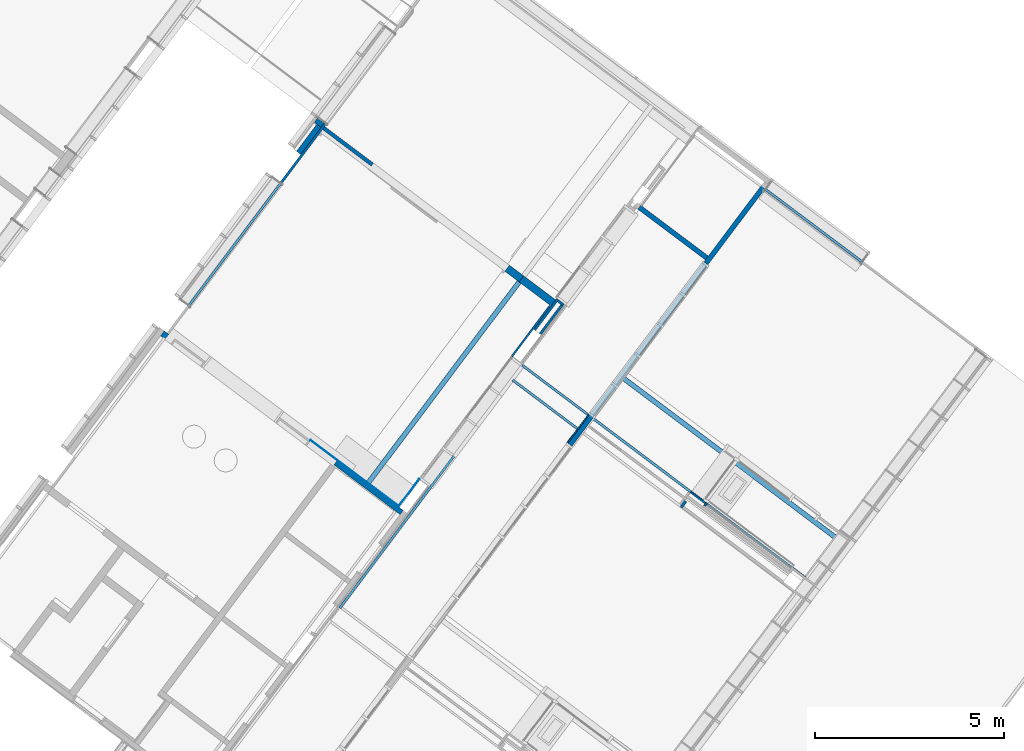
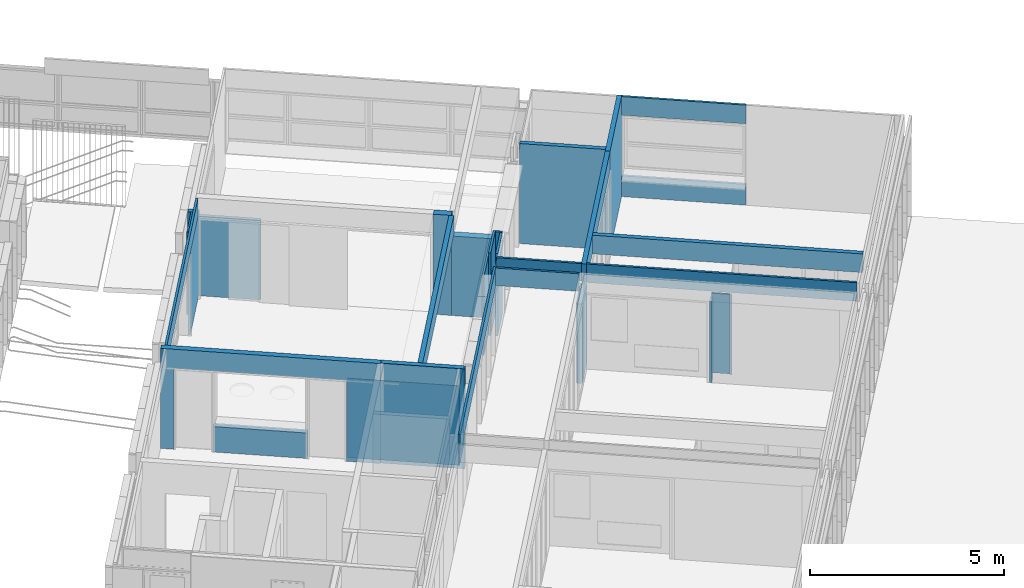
# One storey, part 123 of 243: 32 walls, 3 openings.
"""IFC2X3 building model written with IfcOpenShell, lengths in metres."""

from ifc_helpers import new_model, entity, si_unit, converted_unit, derived_unit, direction, frame, frame_2d, origin, origin_2d_with_axis, place, context, subcontext, project, spatial, polyline, rectangle, extrude, clip, bounded_halfspace, material, layer, layer_set, layer_usage, type_object, element, save


model = new_model("IFC2X3")

# Units and contexts
model_context = context("Model", 3, precision=1e-05, world=origin(), true_north=direction((6.123031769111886e-17, 1.0)))
body_context = subcontext(model_context, "Body", "Model", "MODEL_VIEW")
ifc_project = project(units=[si_unit("LENGTHUNIT", "METRE"), si_unit("AREAUNIT", "SQUARE_METRE"), si_unit("VOLUMEUNIT", "CUBIC_METRE"), converted_unit("PLANEANGLEUNIT", "DEGREE", entity("IfcRatioMeasure", 0.017453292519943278), si_unit("PLANEANGLEUNIT", "RADIAN"), dimensions=[0, 0, 0, 0, 0, 0, 0]), si_unit("MASSUNIT", "GRAM", prefix="KILO"), derived_unit("MASSDENSITYUNIT", [(si_unit("MASSUNIT", "GRAM", prefix="KILO"), 1), (si_unit("LENGTHUNIT", "METRE"), -3)]), derived_unit("IONCONCENTRATIONUNIT", [(si_unit("MASSUNIT", "GRAM", prefix="KILO"), 1), (si_unit("LENGTHUNIT", "METRE"), -3)]), derived_unit("MOMENTOFINERTIAUNIT", [(si_unit("LENGTHUNIT", "METRE"), 4)]), si_unit("TIMEUNIT", "SECOND"), si_unit("FREQUENCYUNIT", "HERTZ"), si_unit("THERMODYNAMICTEMPERATUREUNIT", "DEGREE_CELSIUS"), derived_unit("THERMALTRANSMITTANCEUNIT", [(si_unit("MASSUNIT", "GRAM", prefix="KILO"), 1), (si_unit("THERMODYNAMICTEMPERATUREUNIT", "KELVIN"), -1), (si_unit("TIMEUNIT", "SECOND"), -3)]), derived_unit("THERMALCONDUCTANCEUNIT", [(si_unit("MASSUNIT", "GRAM", prefix="KILO"), 1), (si_unit("THERMODYNAMICTEMPERATUREUNIT", "KELVIN"), -1), (si_unit("TIMEUNIT", "SECOND"), -3), (si_unit("LENGTHUNIT", "METRE"), 1)]), derived_unit("VOLUMETRICFLOWRATEUNIT", [(si_unit("LENGTHUNIT", "METRE"), 3), (si_unit("TIMEUNIT", "SECOND"), -1)]), derived_unit("MASSFLOWRATEUNIT", [(si_unit("MASSUNIT", "GRAM", prefix="KILO"), 1), (si_unit("TIMEUNIT", "SECOND"), -1)]), derived_unit("ROTATIONALFREQUENCYUNIT", [(si_unit("TIMEUNIT", "SECOND"), -1)]), si_unit("ELECTRICCURRENTUNIT", "AMPERE"), si_unit("ELECTRICVOLTAGEUNIT", "VOLT"), si_unit("POWERUNIT", "WATT"), si_unit("FORCEUNIT", "NEWTON", prefix="KILO"), si_unit("ILLUMINANCEUNIT", "LUX"), si_unit("LUMINOUSFLUXUNIT", "LUMEN"), si_unit("LUMINOUSINTENSITYUNIT", "CANDELA"), derived_unit("USERDEFINED", [(si_unit("MASSUNIT", "GRAM", prefix="KILO"), -1), (si_unit("LENGTHUNIT", "METRE"), -2), (si_unit("TIMEUNIT", "SECOND"), 3), (si_unit("LUMINOUSFLUXUNIT", "LUMEN"), 1)]), derived_unit("USERDEFINED", [(si_unit("MASSUNIT", "GRAM", prefix="KILO"), 1), (si_unit("TIMEUNIT", "SECOND"), -3), (si_unit("LENGTHUNIT", "METRE"), 3), (si_unit("ELECTRICCURRENTUNIT", "AMPERE"), -2)]), derived_unit("SOUNDPOWERUNIT", [(si_unit("MASSUNIT", "GRAM", prefix="KILO"), 1), (si_unit("TIMEUNIT", "SECOND"), -3), (si_unit("LENGTHUNIT", "METRE"), 2)]), derived_unit("SOUNDPRESSUREUNIT", [(si_unit("MASSUNIT", "GRAM", prefix="KILO"), 1), (si_unit("LENGTHUNIT", "METRE"), -1), (si_unit("TIMEUNIT", "SECOND"), -2)]), derived_unit("LINEARVELOCITYUNIT", [(si_unit("LENGTHUNIT", "METRE"), 1), (si_unit("TIMEUNIT", "SECOND"), -1)]), si_unit("PRESSUREUNIT", "PASCAL"), derived_unit("USERDEFINED", [(si_unit("MASSUNIT", "GRAM", prefix="KILO"), 1), (si_unit("LENGTHUNIT", "METRE"), -2), (si_unit("TIMEUNIT", "SECOND"), -2)]), derived_unit("LINEARFORCEUNIT", [(si_unit("MASSUNIT", "GRAM", prefix="KILO"), 1), (si_unit("TIMEUNIT", "SECOND"), -2)]), derived_unit("PLANARFORCEUNIT", [(si_unit("MASSUNIT", "GRAM", prefix="KILO"), 1), (si_unit("LENGTHUNIT", "METRE"), -1), (si_unit("TIMEUNIT", "SECOND"), -2)]), derived_unit("SPECIFICHEATCAPACITYUNIT", [(si_unit("THERMODYNAMICTEMPERATUREUNIT", "KELVIN"), -1), (si_unit("LENGTHUNIT", "METRE"), 2), (si_unit("TIMEUNIT", "SECOND"), -2)]), derived_unit("HEATINGVALUEUNIT", [(si_unit("LENGTHUNIT", "METRE"), 2), (si_unit("TIMEUNIT", "SECOND"), -2)]), derived_unit("VAPORPERMEABILITYUNIT", [(si_unit("LENGTHUNIT", "METRE"), -1), (si_unit("TIMEUNIT", "SECOND"), 1)]), derived_unit("DYNAMICVISCOSITYUNIT", [(si_unit("MASSUNIT", "GRAM", prefix="KILO"), 1), (si_unit("TIMEUNIT", "SECOND"), -1), (si_unit("LENGTHUNIT", "METRE"), -1)]), derived_unit("THERMALEXPANSIONCOEFFICIENTUNIT", [(si_unit("THERMODYNAMICTEMPERATUREUNIT", "KELVIN"), -1)]), derived_unit("MODULUSOFELASTICITYUNIT", [(si_unit("MASSUNIT", "GRAM", prefix="KILO"), 1), (si_unit("LENGTHUNIT", "METRE"), -1), (si_unit("TIMEUNIT", "SECOND"), -2)]), derived_unit("ISOTHERMALMOISTURECAPACITYUNIT", [(si_unit("LENGTHUNIT", "METRE"), 3), (si_unit("MASSUNIT", "GRAM", prefix="KILO"), -1)]), derived_unit("MOISTUREDIFFUSIVITYUNIT", [(si_unit("TIMEUNIT", "SECOND"), -1), (si_unit("LENGTHUNIT", "METRE"), 2)])], contexts=[model_context])

# Site, building, storey
site_placement = place(None, frame((0.0, 0.0, 235.0), z_axis=(0.0, 0.0, 1.0), x_axis=(-0.7996477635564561, 0.6004693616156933, 0.0)))
site = spatial("IfcSite", under=ifc_project, at=site_placement, Name="Default", CompositionType="ELEMENT")
building_placement = place(site_placement, origin())
building = spatial("IfcBuilding", under=site, at=building_placement, CompositionType="ELEMENT")
storey_placement = place(building_placement, origin())
storey = spatial("IfcBuildingStorey", under=building, at=storey_placement, Name="P0- Escola", CompositionType="ELEMENT", Elevation=0.0)

# Walls
ifc_material_1 = material(Name="_Ceràmica- ENV")
ifc_layer_1 = layer(ifc_material_1, 0.14)
ifc_layer_set_1 = layer_set([ifc_layer_1], Name="Muro básico:ENV- Ceràmic- 14 cm")
ifc_layer_usage_1 = layer_usage(ifc_layer_set_1, "AXIS2", "NEGATIVE", 0.07)
wall_type_1 = type_object("IfcWallType", Name="Muro básico:ENV- Ceràmic- 14 cm", PredefinedType="STANDARD", material=ifc_layer_set_1)
wall_1_placement = place(storey_placement, frame((23.715147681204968, -35.36519175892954, 0.0), z_axis=(0.0, 0.0, 1.0), x_axis=(0.0, -1.0, 0.0)))
element("IfcWallStandardCase", 1, at=wall_1_placement, inside=storey, type_object=wall_type_1, material=ifc_layer_usage_1, Name="Muro básico:ENV- Ceràmic- 14 cm", ObjectType="Muro básico:ENV- Ceràmic- 14 cm", context=body_context, shape_type="Clipping", body=[
    clip(clip(extrude(rectangle(XDim=1.0329999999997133, YDim=0.14000000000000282, at=frame_2d((0.5164999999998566, 0.0), x_axis=(-1.0, 0.0))), origin(), (0.0, 0.0, 1.0), 2.6), bounded_halfspace(frame((0.8929999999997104, -0.07000000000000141, 0.6000000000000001), z_axis=(-1.0, 0.0, 0.0), x_axis=(0.0, -1.0, 0.0)), True, frame((0.8929999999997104, -0.07000000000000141, 0.6000000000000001), z_axis=(-1.0, 0.0, 0.0), x_axis=(0.0, -1.0, 0.0)), polyline([(0.0, 0.0), (0.0, 2.0), (-0.14000000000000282, 2.0), (-0.14000000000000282, 0.0), (0.0, 0.0)]))), bounded_halfspace(frame((0.8929999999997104, 0.07000000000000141, 0.6000000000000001), z_axis=(0.0, 0.0, -1.0), x_axis=(-1.0, 0.0, 0.0)), True, frame((0.8929999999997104, 0.07000000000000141, 0.6000000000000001), z_axis=(0.0, 0.0, -1.0), x_axis=(-1.0, 0.0, 0.0)), polyline([(0.0, 0.0), (-0.1400000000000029, 0.0), (-0.1400000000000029, -0.1399999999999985), (0.0, -0.1399999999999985), (0.0, 0.0)]))),
])
wall_2_placement = place(storey_placement, frame((23.645147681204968, -36.32819175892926, 0.6000000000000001)))
element("IfcWallStandardCase", 2, at=wall_2_placement, inside=storey, type_object=wall_type_1, material=ifc_layer_usage_1, Name="Muro básico:ENV- Ceràmic- 14 cm", ObjectType="Muro básico:ENV- Ceràmic- 14 cm", context=body_context, shape_type="SweptSolid", body=[
    extrude(rectangle(XDim=0.22370000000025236, YDim=0.14000000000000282, at=frame_2d((0.11185000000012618, 0.0), x_axis=(-1.0, 0.0))), origin(), (0.0, 0.0, 1.0), 2.0),
])
ifc_layer_usage_2 = layer_usage(ifc_layer_set_1, "AXIS2", "POSITIVE", -0.07)
wall_3_placement = place(storey_placement, frame((18.012647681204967, -29.395191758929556, 0.0), z_axis=(0.0, 0.0, 1.0), x_axis=(-1.0, 0.0, 0.0)))
element("IfcWallStandardCase", 3, at=wall_3_placement, inside=storey, type_object=wall_type_1, material=ifc_layer_usage_2, Name="Muro básico:ENV- Ceràmic- 14 cm", ObjectType="Muro básico:ENV- Ceràmic- 14 cm", context=body_context, shape_type="SweptSolid", body=[
    extrude(rectangle(XDim=2.1875000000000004, YDim=0.14000000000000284, at=frame_2d((1.0937500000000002, 4.718447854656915e-16), x_axis=(-1.0, 0.0))), origin(), (0.0, 0.0, 1.0), 3.150000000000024),
])
ifc_material_2 = material(Name="_Fusta massisa- T1-  REV- PAV")
ifc_layer_2 = layer(ifc_material_2, 0.015)
ifc_material_3 = material(Name="_Genèric perfils, muntants, rastrells")
ifc_layer_3 = layer(ifc_material_3, 0.02)
ifc_layer_set_2 = layer_set([ifc_layer_2, ifc_layer_3], Name="Muro básico:REV- Fusta- T1- 3,5 cm")
ifc_layer_usage_3 = layer_usage(ifc_layer_set_2, "AXIS2", "POSITIVE", -0.0175)
wall_type_2 = type_object("IfcWallType", Name="Muro básico:REV- Fusta- T1- 3,5 cm", PredefinedType="STANDARD", material=ifc_layer_set_2)
wall_4_placement = place(storey_placement, frame((13.421647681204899, -34.44019175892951, 0.0), z_axis=(0.0, 0.0, 1.0), x_axis=(0.0, 1.0, 0.0)))
element("IfcWallStandardCase", 4, at=wall_4_placement, inside=storey, type_object=wall_type_2, material=ifc_layer_usage_3, Name="Muro básico:REV- Fusta- T1- 3,5 cm", ObjectType="Muro básico:REV- Fusta- T1- 3,5 cm", context=body_context, shape_type="SweptSolid", body=[
    extrude(rectangle(XDim=0.9399999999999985, YDim=0.035000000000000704, at=frame_2d((0.46999999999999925, 0.0), x_axis=(-1.0, 0.0))), origin(), (0.0, 0.0, 1.0), 2.5050000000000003),
])
ifc_material_4 = material(Name="_Guix laminat- ENV")
ifc_layer_4 = layer(ifc_material_4, 0.02)
ifc_material_5 = material(Name="_Aillament")
ifc_layer_5 = layer(ifc_material_5, 0.045)
ifc_layer_set_3 = layer_set([ifc_layer_4, ifc_layer_5], Name="Muro básico:REV- Guix Laminat Extradossat- Aillament- T1- 6,5 cm")
ifc_layer_usage_4 = layer_usage(ifc_layer_set_3, "AXIS2", "NEGATIVE", 0.032499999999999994)
wall_type_3 = type_object("IfcWallType", Name="Muro básico:REV- Guix Laminat Extradossat- Aillament- T1- 6,5 cm", PredefinedType="STANDARD", material=ifc_layer_set_3)
wall_5_placement = place(storey_placement, frame((15.91264768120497, -35.36519175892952, 0.0), z_axis=(0.0, 0.0, 1.0), x_axis=(0.0, -1.0, 0.0)))
element("IfcWallStandardCase", 5, at=wall_5_placement, inside=storey, type_object=wall_type_3, material=ifc_layer_usage_4, Name="Muro básico:REV- Guix Laminat Extradossat- Aillament- T1- 6,5 cm", ObjectType="Muro básico:REV- Guix Laminat Extradossat- Aillament- T1- 6,5 cm", context=body_context, shape_type="SweptSolid", body=[
    extrude(rectangle(XDim=1.0200000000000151, YDim=0.06499999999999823, at=frame_2d((0.5100000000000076, -1.8735013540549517e-16), x_axis=(-1.0, 0.0))), origin(), (0.0, 0.0, 1.0), 2.6),
])
wall_6_placement = place(storey_placement, frame((15.880147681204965, -36.35269175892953, 0.0), z_axis=(0.0, 0.0, 1.0), x_axis=(-1.0, 0.0, 0.0)))
element("IfcWallStandardCase", 6, at=wall_6_placement, inside=storey, type_object=wall_type_3, material=ifc_layer_usage_4, Name="Muro básico:REV- Guix Laminat Extradossat- Aillament- T1- 6,5 cm", ObjectType="Muro básico:REV- Guix Laminat Extradossat- Aillament- T1- 6,5 cm", context=body_context, shape_type="SweptSolid", body=[
    extrude(rectangle(XDim=0.18499999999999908, YDim=0.06500000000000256, at=frame_2d((0.09249999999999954, 0.0), x_axis=(-1.0, 0.0))), origin(), (0.0, 0.0, 1.0), 2.6),
])
wall_7_placement = place(storey_placement, frame((15.727647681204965, -36.32019175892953, 0.0), z_axis=(0.0, 0.0, 1.0), x_axis=(0.0, 1.0, 0.0)))
element("IfcWallStandardCase", 7, at=wall_7_placement, inside=storey, type_object=wall_type_3, material=ifc_layer_usage_4, Name="Muro básico:REV- Guix Laminat Extradossat- Aillament- T1- 6,5 cm", ObjectType="Muro básico:REV- Guix Laminat Extradossat- Aillament- T1- 6,5 cm", context=body_context, shape_type="SweptSolid", body=[
    extrude(rectangle(XDim=0.955000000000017, YDim=0.06499999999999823, at=frame_2d((0.4775000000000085, -2.42861286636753e-16), x_axis=(-1.0, 0.0))), origin(), (0.0, 0.0, 1.0), 2.6),
])
wall_8_placement = place(storey_placement, frame((23.612647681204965, -36.13619175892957, 2.6), z_axis=(0.0, 0.0, 1.0), x_axis=(0.0, 1.0, 0.0)))
element("IfcWallStandardCase", 8, at=wall_8_placement, inside=storey, type_object=wall_type_3, material=ifc_layer_usage_4, Name="Muro básico:REV- Guix Laminat Extradossat- Aillament- T1- 6,5 cm", ObjectType="Muro básico:REV- Guix Laminat Extradossat- Aillament- T1- 6,5 cm", context=body_context, shape_type="SweptSolid", body=[
    extrude(rectangle(XDim=6.671000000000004, YDim=0.06500000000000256, at=frame_2d((3.335500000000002, 0.0), x_axis=(-1.0, 0.0))), origin(), (0.0, 0.0, 1.0), 0.5500000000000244),
])
wall_9_placement = place(storey_placement, frame((23.612647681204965, -36.39819175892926, 0.0), z_axis=(0.0, 0.0, 1.0), x_axis=(0.0, 1.0, 0.0)))
element("IfcWallStandardCase", 9, at=wall_9_placement, inside=storey, type_object=wall_type_3, material=ifc_layer_usage_4, Name="Muro básico:REV- Guix Laminat Extradossat- Aillament- T1- 6,5 cm", ObjectType="Muro básico:REV- Guix Laminat Extradossat- Aillament- T1- 6,5 cm", context=body_context, shape_type="SweptSolid", body=[
    extrude(rectangle(XDim=1.9529999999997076, YDim=0.06500000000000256, at=frame_2d((0.9764999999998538, 0.0), x_axis=(-1.0, 0.0))), origin(), (0.0, 0.0, 1.0), 2.6),
])
wall_10_placement = place(storey_placement, frame((15.612647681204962, -33.99019175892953, 2.5650000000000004), z_axis=(0.0, 0.0, 1.0), x_axis=(0.0, 1.0, 0.0)))
element("IfcWallStandardCase", 10, at=wall_10_placement, inside=storey, type_object=wall_type_3, material=ifc_layer_usage_4, Name="Muro básico:REV- Guix Laminat Extradossat- Aillament- T1- 6,5 cm", ObjectType="Muro básico:REV- Guix Laminat Extradossat- Aillament- T1- 6,5 cm", context=body_context, shape_type="SweptSolid", body=[
    extrude(rectangle(XDim=7.6000000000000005, YDim=0.06499999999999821, at=frame_2d((3.8000000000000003, 0.0), x_axis=(-1.0, 0.0))), origin(), (0.0, 0.0, 1.0), 0.5850000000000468),
])
wall_11_placement = place(storey_placement, frame((13.410147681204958, -33.95769175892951, 2.600000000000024)))
element("IfcWallStandardCase", 11, at=wall_11_placement, inside=storey, type_object=wall_type_3, material=ifc_layer_usage_4, Name="Muro básico:REV- Guix Laminat Extradossat- Aillament- T1- 6,5 cm", ObjectType="Muro básico:REV- Guix Laminat Extradossat- Aillament- T1- 6,5 cm", context=body_context, shape_type="Clipping", body=[
    clip(extrude(rectangle(XDim=2.170000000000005, YDim=0.06500000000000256, at=frame_2d((1.0850000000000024, -2.0747292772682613e-15), x_axis=(-1.0, 0.0))), origin(), (0.0, 0.0, 1.0), 0.5499999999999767), bounded_halfspace(frame((2.170000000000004, -0.03250000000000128, 0.0), z_axis=(0.0, 0.0, 1.0), x_axis=(-1.0, 0.0, 0.0)), True, frame((2.170000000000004, -0.03250000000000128, 0.0), z_axis=(0.0, 0.0, 1.0), x_axis=(-1.0, 0.0, 0.0)), polyline([(0.0, 0.0), (0.0, -0.06499999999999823), (2.1700000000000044, -0.06499999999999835), (2.170000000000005, 0.0), (0.0, 0.0)]))),
])
ifc_layer_usage_5 = layer_usage(ifc_layer_set_3, "AXIS2", "POSITIVE", -0.032499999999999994)
wall_12_placement = place(storey_placement, frame((13.410147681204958, -34.42269175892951, 2.5649999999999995)))
element("IfcWallStandardCase", 12, at=wall_12_placement, inside=storey, type_object=wall_type_3, material=ifc_layer_usage_5, Name="Muro básico:REV- Guix Laminat Extradossat- Aillament- T1- 6,5 cm", ObjectType="Muro básico:REV- Guix Laminat Extradossat- Aillament- T1- 6,5 cm", context=body_context, shape_type="Clipping", body=[
    clip(clip(extrude(rectangle(XDim=2.202500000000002, YDim=0.06500000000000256, at=frame_2d((1.101250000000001, 3.95516952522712e-16), x_axis=(-1.0, 0.0))), origin(), (0.0, 0.0, 1.0), 0.5850000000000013), bounded_halfspace(frame((2.200000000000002, 0.03250000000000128, 0.03500000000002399), z_axis=(0.0, 0.0, 1.0), x_axis=(-1.0, 0.0, 0.0)), True, frame((2.200000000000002, 0.03250000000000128, 0.03500000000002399), z_axis=(0.0, 0.0, 1.0), x_axis=(-1.0, 0.0, 0.0)), polyline([(0.0, 0.0), (2.2000000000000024, 0.0), (2.2000000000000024, 0.06499999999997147), (0.0, 0.06499999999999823), (0.0, 0.0)]))), bounded_halfspace(frame((2.2000000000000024, -0.03249999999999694, 0.03500000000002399), z_axis=(1.0, 0.0, 0.0), x_axis=(0.0, 0.0, -1.0)), True, frame((2.2000000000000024, -0.03249999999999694, 0.03500000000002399), z_axis=(1.0, 0.0, 0.0), x_axis=(0.0, 0.0, -1.0)), polyline([(0.0, 0.0), (0.03500000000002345, 0.0), (0.03500000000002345, 0.06499999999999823), (0.0, 0.06499999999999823), (0.0, 0.0)]))),
])
wall_13_placement = place(storey_placement, frame((6.250147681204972, -34.42269175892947, 2.5649999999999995)))
element("IfcWallStandardCase", 13, at=wall_13_placement, inside=storey, type_object=wall_type_3, material=ifc_layer_usage_5, Name="Muro básico:REV- Guix Laminat Extradossat- Aillament- T1- 6,5 cm", ObjectType="Muro básico:REV- Guix Laminat Extradossat- Aillament- T1- 6,5 cm", context=body_context, shape_type="SweptSolid", body=[
    extrude(rectangle(XDim=7.029999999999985, YDim=0.06500000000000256, at=frame_2d((3.5149999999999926, 1.8665624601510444e-15), x_axis=(-1.0, 0.0))), origin(), (0.0, 0.0, 1.0), 0.5850000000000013),
])
wall_14_placement = place(storey_placement, frame((10.045147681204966, -42.007691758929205, 2.565)))
element("IfcWallStandardCase", 14, at=wall_14_placement, inside=storey, type_object=wall_type_3, material=ifc_layer_usage_4, Name="Muro básico:REV- Guix Laminat Extradossat- Aillament- T1- 6,5 cm", ObjectType="Muro básico:REV- Guix Laminat Extradossat- Aillament- T1- 6,5 cm", context=body_context, shape_type="SweptSolid", body=[
    extrude(rectangle(XDim=3.2349999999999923, YDim=0.06500000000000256, at=frame_2d((1.6174999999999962, 1.0408340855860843e-17), x_axis=(-1.0, 0.0))), origin(), (0.0, 0.0, 1.0), 0.5850000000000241),
])
wall_15_placement = place(storey_placement, frame((10.04514768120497, -42.00769175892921, 0.0)))
element("IfcWallStandardCase", 15, at=wall_15_placement, inside=storey, type_object=wall_type_3, material=ifc_layer_usage_4, Name="Muro básico:REV- Guix Laminat Extradossat- Aillament- T1- 6,5 cm", ObjectType="Muro básico:REV- Guix Laminat Extradossat- Aillament- T1- 6,5 cm", context=body_context, shape_type="SweptSolid", body=[
    extrude(rectangle(XDim=3.23499999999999, YDim=0.06500000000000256, at=frame_2d((1.617499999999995, 1.0408340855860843e-17), x_axis=(-1.0, 0.0))), origin(), (0.0, 0.0, 1.0), 0.6550000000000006),
])
ifc_layer_6 = layer(ifc_material_4, 0.03)
ifc_layer_7 = layer(ifc_material_3, 0.07)
ifc_layer_8 = layer(ifc_material_4, 0.03)
ifc_layer_set_4 = layer_set([ifc_layer_6, ifc_layer_7, ifc_layer_8], Name="Muro básico:ENV- Guix Laminat- 13 cm")
ifc_layer_usage_6 = layer_usage(ifc_layer_set_4, "AXIS2", "NEGATIVE", 0.06499999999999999)
wall_type_4 = type_object("IfcWallType", Name="Muro básico:ENV- Guix Laminat- 13 cm", PredefinedType="STANDARD", material=ifc_layer_set_4)
wall_16_placement = place(storey_placement, frame((13.339147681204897, -33.50019175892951, 0.0), z_axis=(0.0, 0.0, 1.0), x_axis=(0.0, -1.0, 0.0)))
element("IfcWallStandardCase", 16, at=wall_16_placement, inside=storey, type_object=wall_type_4, material=ifc_layer_usage_6, Name="Muro básico:ENV- Guix Laminat- 13 cm", ObjectType="Muro básico:ENV- Guix Laminat- 13 cm", context=body_context, shape_type="SweptSolid", body=[
    extrude(rectangle(XDim=0.9399999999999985, YDim=0.13000000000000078, at=frame_2d((0.46999999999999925, 0.0), x_axis=(-1.0, 0.0))), origin(), (0.0, 0.0, 1.0), 2.5050000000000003),
])
ifc_layer_usage_7 = layer_usage(ifc_layer_set_4, "AXIS2", "POSITIVE", -0.06499999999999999)
wall_17_placement = place(storey_placement, frame((15.645147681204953, -39.6251917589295, 0.0), z_axis=(0.0, 0.0, 1.0), x_axis=(-1.0, 0.0, 0.0)))
element("IfcWallStandardCase", 17, at=wall_17_placement, inside=storey, type_object=wall_type_4, material=ifc_layer_usage_7, Name="Muro básico:ENV- Guix Laminat- 13 cm", ObjectType="Muro básico:ENV- Guix Laminat- 13 cm", context=body_context, shape_type="SweptSolid", body=[
    extrude(rectangle(XDim=2.234999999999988, YDim=0.1300000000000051, at=frame_2d((1.117499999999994, 0.0), x_axis=(-1.0, 0.0))), origin(), (0.0, 0.0, 1.0), 3.150000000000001),
])
wall_18_placement = place(storey_placement, frame((13.345147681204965, -39.500191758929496, 2.565), z_axis=(0.0, 0.0, 1.0), x_axis=(0.0, 1.0, 0.0)))
element("IfcWallStandardCase", 18, at=wall_18_placement, inside=storey, type_object=wall_type_4, material=ifc_layer_usage_7, Name="Muro básico:ENV- Guix Laminat- 13 cm", ObjectType="Muro básico:ENV- Guix Laminat- 13 cm", context=body_context, shape_type="Clipping", body=[
    clip(extrude(rectangle(XDim=5.109999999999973, YDim=0.13000000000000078, at=frame_2d((2.5549999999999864, 4.85722573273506e-17), x_axis=(-1.0, 0.0))), origin(), (0.0, 0.0, 1.0), 0.5850000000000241), bounded_halfspace(frame((0.0, -0.06500000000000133, 0.0), z_axis=(1.0, 0.0, 0.0), x_axis=(0.0, -1.0, 0.0)), True, frame((0.0, -0.06500000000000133, 0.0), z_axis=(1.0, 0.0, 0.0), x_axis=(0.0, -1.0, 0.0)), polyline([(0.0, 0.0), (-0.13000000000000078, 0.0), (-0.13000000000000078, -0.5850000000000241), (0.0, -0.5850000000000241), (0.0, 0.0)]))),
])
wall_19_placement = place(storey_placement, frame((6.250147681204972, -35.75619175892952, 2.5649999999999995)))
element("IfcWallStandardCase", 19, at=wall_19_placement, inside=storey, type_object=wall_type_4, material=ifc_layer_usage_7, Name="Muro básico:ENV- Guix Laminat- 13 cm", ObjectType="Muro básico:ENV- Guix Laminat- 13 cm", context=body_context, shape_type="SweptSolid", body=[
    extrude(rectangle(XDim=7.029999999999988, YDim=0.12999999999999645, at=frame_2d((3.514999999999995, -3.122502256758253e-16), x_axis=(-1.0, 0.0))), origin(), (0.0, 0.0, 1.0), 0.5850000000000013),
])
wall_20_placement = place(storey_placement, frame((17.000147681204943, -36.13619175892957, 2.565), z_axis=(0.0, 0.0, 1.0), x_axis=(0.0, 1.0, 0.0)))
element("IfcWallStandardCase", 20, at=wall_20_placement, inside=storey, type_object=wall_type_4, material=ifc_layer_usage_7, Name="Muro básico:ENV- Guix Laminat- 13 cm", ObjectType="Muro básico:ENV- Guix Laminat- 13 cm", context=body_context, shape_type="SweptSolid", body=[
    extrude(rectangle(XDim=6.671000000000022, YDim=0.13000000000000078, at=frame_2d((3.335500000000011, 0.0), x_axis=(-1.0, 0.0))), origin(), (0.0, 0.0, 1.0), 0.5850000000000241),
])
wall_21_placement = place(storey_placement, frame((13.345147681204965, -39.500191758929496, 0.0), z_axis=(0.0, 0.0, 1.0), x_axis=(0.0, -1.0, 0.0)))
element("IfcWallStandardCase", 21, at=wall_21_placement, inside=storey, type_object=wall_type_4, material=ifc_layer_usage_6, Name="Muro básico:ENV- Guix Laminat- 13 cm", ObjectType="Muro básico:ENV- Guix Laminat- 13 cm", context=body_context, shape_type="SweptSolid", body=[
    extrude(rectangle(XDim=2.5399999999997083, YDim=0.13000000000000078, at=frame_2d((1.2699999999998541, 8.326672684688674e-17), x_axis=(-1.0, 0.0))), origin(), (0.0, 0.0, 1.0), 3.150000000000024),
])
ifc_layer_9 = layer(ifc_material_4, 0.015)
ifc_layer_10 = layer(ifc_material_3, 0.085)
ifc_layer_11 = layer(ifc_material_3, 0.085)
ifc_layer_12 = layer(ifc_material_4, 0.015)
ifc_layer_set_5 = layer_set([ifc_layer_9, ifc_layer_10, ifc_layer_11, ifc_layer_12], Name="Muro básico:ENV- Guix Laminat- 22 cm")
ifc_layer_usage_8 = layer_usage(ifc_layer_set_5, "AXIS2", "NEGATIVE", 0.10000000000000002)
wall_type_5 = type_object("IfcWallType", Name="Muro básico:ENV- Guix Laminat- 22 cm", PredefinedType="STANDARD", material=ifc_layer_set_5)
wall_22_placement = place(storey_placement, frame((15.945147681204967, -36.236191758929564, 0.0)))
element("IfcWallStandardCase", 22, at=wall_22_placement, inside=storey, type_object=wall_type_5, material=ifc_layer_usage_8, Name="Muro básico:ENV- Guix Laminat- 22 cm", ObjectType="Muro básico:ENV- Guix Laminat- 22 cm", context=body_context, shape_type="SweptSolid", body=[
    extrude(rectangle(XDim=1.0549999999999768, YDim=0.19999999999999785, at=frame_2d((0.5274999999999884, -1.8735013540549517e-16), x_axis=(-1.0, 0.0))), origin(), (0.0, 0.0, 1.0), 2.505000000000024),
])
wall_23_placement = place(storey_placement, frame((16.935147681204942, -36.236191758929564, 0.0)))
element("IfcWallStandardCase", 23, at=wall_23_placement, inside=storey, type_object=wall_type_5, material=ifc_layer_usage_8, Name="Muro básico:ENV- Guix Laminat- 22 cm", ObjectType="Muro básico:ENV- Guix Laminat- 22 cm", context=body_context, shape_type="SweptSolid", body=[
    extrude(rectangle(XDim=0.4720000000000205, YDim=0.20000000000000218, at=frame_2d((0.30100000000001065, -2.1649348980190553e-15), x_axis=(-1.0, 0.0))), origin(), (0.0, 0.0, 1.0), 3.150000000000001),
])
ifc_layer_13 = layer(ifc_material_2, 0.02)
ifc_layer_14 = layer(ifc_material_3, 0.03)
ifc_layer_set_6 = layer_set([ifc_layer_13, ifc_layer_14], Name="Muro básico:REV- Fusta- T1- 5 cm")
ifc_layer_usage_9 = layer_usage(ifc_layer_set_6, "AXIS2", "NEGATIVE", 0.024999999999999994)
wall_type_6 = type_object("IfcWallType", Name="Muro básico:REV- Fusta- T1- 5 cm", PredefinedType="STANDARD", material=ifc_layer_set_6)
wall_24_placement = place(storey_placement, frame((15.970147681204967, -34.44269085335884, 0.0), z_axis=(0.0, 0.0, 1.0), x_axis=(0.0, -1.0, 0.0)))
element("IfcWallStandardCase", 24, at=wall_24_placement, inside=storey, type_object=wall_type_6, material=ifc_layer_usage_9, Name="Muro básico:REV- Fusta- T1- 5 cm", ObjectType="Muro básico:REV- Fusta- T1- 5 cm", context=body_context, shape_type="SweptSolid", body=[
    extrude(rectangle(XDim=1.6785009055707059, YDim=0.050000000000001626, at=frame_2d((0.8392504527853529, 4.891920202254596e-16), x_axis=(-1.0, 0.0))), origin(), (0.0, 0.0, 1.0), 2.5050000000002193),
])
ifc_layer_15 = layer(ifc_material_4, 0.015)
ifc_layer_16 = layer(ifc_material_3, 0.055)
ifc_layer_set_7 = layer_set([ifc_layer_15, ifc_layer_16], Name="Muro básico:ENV- Guix Laminat una cara- 7 cm")
ifc_layer_usage_10 = layer_usage(ifc_layer_set_7, "AXIS2", "NEGATIVE", 0.035)
wall_type_7 = type_object("IfcWallType", Name="Muro básico:ENV- Guix Laminat una cara- 7 cm", PredefinedType="STANDARD", material=ifc_layer_set_7)
wall_25_placement = place(storey_placement, frame((9.993147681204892, -33.94019175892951, 0.0), z_axis=(0.0, 0.0, 1.0), x_axis=(0.0, -1.0, 0.0)))
element("IfcWallStandardCase", 25, at=wall_25_placement, inside=storey, type_object=wall_type_7, material=ifc_layer_usage_10, Name="Muro básico:ENV- Guix Laminat una cara- 7 cm", ObjectType="Muro básico:ENV- Guix Laminat una cara- 7 cm", context=body_context, shape_type="SweptSolid", body=[
    extrude(rectangle(XDim=0.20200000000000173, YDim=0.07000000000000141, at=frame_2d((0.10100000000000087, 0.0), x_axis=(-1.0, 0.0))), origin(), (0.0, 0.0, 1.0), 2.5650000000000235),
])
ifc_layer_17 = layer(ifc_material_4, 0.015)
ifc_layer_18 = layer(ifc_material_3, 0.07)
ifc_layer_19 = layer(ifc_material_4, 0.015)
ifc_layer_set_8 = layer_set([ifc_layer_17, ifc_layer_18, ifc_layer_19], Name="Muro básico:ENV- Guix Laminat- 10 cm")
ifc_layer_usage_11 = layer_usage(ifc_layer_set_8, "AXIS2", "NEGATIVE", 0.05)
wall_type_8 = type_object("IfcWallType", Name="Muro básico:ENV- Guix Laminat- 10 cm", PredefinedType="STANDARD", material=ifc_layer_set_8)
wall_26_placement = place(storey_placement, frame((23.580147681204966, -36.28619175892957, 0.0), z_axis=(0.0, 0.0, 1.0), x_axis=(-1.0, 0.0, 0.0)))
element("IfcWallStandardCase", 26, at=wall_26_placement, inside=storey, type_object=wall_type_8, material=ifc_layer_usage_11, Name="Muro básico:ENV- Guix Laminat- 10 cm", ObjectType="Muro básico:ENV- Guix Laminat- 10 cm", context=body_context, shape_type="SweptSolid", body=[
    extrude(rectangle(XDim=1.6080000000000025, YDim=0.10000000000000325, at=frame_2d((0.8040000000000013, -4.3021142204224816e-16), x_axis=(-1.0, 0.0))), origin(), (0.0, 0.0, 1.0), 2.5050000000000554),
])
ifc_material_6 = material(Name="_HPL- T1- REV")
ifc_layer_20 = layer(ifc_material_6, 0.012)
ifc_layer_21 = layer(ifc_material_3, 0.007999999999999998)
ifc_layer_set_9 = layer_set([ifc_layer_20, ifc_layer_21], Name="Muro básico:REV- Extradossat resines fenòliques- T1- 2,5 cm")
ifc_layer_usage_12 = layer_usage(ifc_layer_set_9, "AXIS2", "POSITIVE", -0.009999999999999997)
wall_type_9 = type_object("IfcWallType", Name="Muro básico:REV- Extradossat resines fenòliques- T1- 2,5 cm", PredefinedType="STANDARD", material=ifc_layer_set_9)
wall_27_placement = place(storey_placement, frame((15.985147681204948, -30.38269085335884, 0.0), z_axis=(0.0, 0.0, 1.0), x_axis=(0.0, 1.0, 0.0)))
element("IfcWallStandardCase", 27, at=wall_27_placement, inside=storey, type_object=wall_type_9, material=ifc_layer_usage_12, Name="Muro básico:REV- Extradossat resines fenòliques- T1- 2,5 cm", ObjectType="Muro básico:REV- Extradossat resines fenòliques- T1- 2,5 cm", context=body_context, shape_type="SweptSolid", body=[
    extrude(rectangle(XDim=0.917499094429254, YDim=0.019999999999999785, at=frame_2d((0.458749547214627, 0.0), x_axis=(-1.0, 0.0))), origin(), (0.0, 0.0, 1.0), 2.5050000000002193),
])
wall_28_placement = place(storey_placement, frame((15.995147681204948, -29.47519175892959, 0.0)))
element("IfcWallStandardCase", 28, at=wall_28_placement, inside=storey, type_object=wall_type_9, material=ifc_layer_usage_12, Name="Muro básico:REV- Extradossat resines fenòliques- T1- 2,5 cm", ObjectType="Muro básico:REV- Extradossat resines fenòliques- T1- 2,5 cm", context=body_context, shape_type="SweptSolid", body=[
    extrude(rectangle(XDim=2.902000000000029, YDim=0.020000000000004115, at=frame_2d((1.4510000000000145, 0.0), x_axis=(-1.0, 0.0))), origin(), (0.0, 0.0, 1.0), 2.5050000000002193),
])

# Wall, openings
ifc_material_7 = material(Name="_Enrajolat Gresite- REV- PAV")
ifc_layer_22 = layer(ifc_material_7, 0.01)
ifc_material_8 = material(Name="_Morter Base - REV")
ifc_layer_23 = layer(ifc_material_8, 0.015)
ifc_layer_24 = layer(ifc_material_1, 0.14)
ifc_layer_set_10 = layer_set([ifc_layer_22, ifc_layer_23, ifc_layer_24], Name="Muro básico:ENV- REV- Ceràmic- 14 cm + peces pasta vitrea")
ifc_layer_usage_13 = layer_usage(ifc_layer_set_10, "AXIS2", "NEGATIVE", 0.08249999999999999)
wall_type_10 = type_object("IfcWallType", Name="Muro básico:ENV- REV- Ceràmic- 14 cm + peces pasta vitrea", PredefinedType="STANDARD", material=ifc_layer_set_10)
wall_29_placement = place(storey_placement, frame((18.012647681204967, -29.38269175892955, 0.0)))
wall_29 = element("IfcWallStandardCase", 29, at=wall_29_placement, inside=storey, type_object=wall_type_10, material=ifc_layer_usage_13, Name="Muro básico:ENV- REV- Ceràmic- 14 cm + peces pasta vitrea", ObjectType="Muro básico:ENV- REV- Ceràmic- 14 cm + peces pasta vitrea", context=body_context, shape_type="SweptSolid", body=[
    extrude(rectangle(XDim=5.7175000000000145, YDim=0.16500000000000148, at=frame_2d((2.8587500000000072, -2.789435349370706e-15), x_axis=(1.0, 0.0))), origin(), (0.0, 0.0, 1.0), 3.150000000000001),
])
opening_1_placement = place(wall_29_placement, frame((0.8845000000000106, -0.08250000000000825, 0.0)))
element("IfcOpeningElement", 30, at=opening_1_placement, cuts=wall_29, Name="FUS- Porta Fusta- marc ocult- obertura interior:FUS- Porta Fusta- marc ocult- 90x250,5 cm:1", ObjectType="Opening", context=body_context, shape_type="SweptSolid", body=[
    extrude(rectangle(XDim=2.544999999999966, YDim=1.0199999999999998, at=frame_2d((1.272499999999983, 0.5100000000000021), x_axis=(1.0, 0.0))), frame((0.0, 0.0, 0.0), z_axis=(0.0, 1.0, 0.0), x_axis=(0.0, 0.0, 1.0)), (0.0, 0.0, 1.0), 0.16499999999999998),
])
opening_2_placement = place(wall_29_placement, frame((4.350000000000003, -0.08250000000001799, 0.0)))
element("IfcOpeningElement", 31, at=opening_2_placement, cuts=wall_29, Name="FUS- Porta Fusta- marc ocult- obertura interior:FUS- Porta Fusta- marc ocult- 90x250,5 cm:1", ObjectType="Opening", context=body_context, shape_type="SweptSolid", body=[
    extrude(rectangle(XDim=2.544999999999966, YDim=1.0199999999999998, at=frame_2d((1.272499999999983, 0.5099999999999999), x_axis=(1.0, 0.0))), frame((0.0, 0.0, 0.0), z_axis=(0.0, 1.0, 0.0), x_axis=(0.0, 0.0, 1.0)), (0.0, 0.0, 1.0), 0.16499999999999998),
])
opening_3_placement = place(wall_29_placement, frame((1.9045000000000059, -1.4415000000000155, 0.8)))
element("IfcOpeningElement", 32, at=opening_3_placement, cuts=wall_29, Name="Muro básico:ENV- REV- Ceràmic- 14 cm + peces pasta vitrea", ObjectType="Opening", context=body_context, shape_type="SweptSolid", body=[
    extrude(rectangle(XDim=1.7449999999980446, YDim=2.44549999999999, at=origin_2d_with_axis()), frame((1.222749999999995, 0.0, 0.8724999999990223), z_axis=(0.0, 1.0, 0.0), x_axis=(0.0, 0.0, 1.0)), (0.0, 0.0, 1.0), 3.048),
])

# Walls
ifc_layer_25 = layer(ifc_material_4, 0.015)
ifc_layer_26 = layer(ifc_material_5, 0.035)
ifc_layer_set_11 = layer_set([ifc_layer_25, ifc_layer_26], Name="Muro básico:REV- Guix Laminat Extradossat- Aïllament- T1- 5 cm")
ifc_layer_usage_14 = layer_usage(ifc_layer_set_11, "AXIS2", "NEGATIVE", 0.025)
wall_type_11 = type_object("IfcWallType", Name="Muro básico:REV- Guix Laminat Extradossat- Aïllament- T1- 5 cm", PredefinedType="STANDARD", material=ifc_layer_set_11)
wall_30_placement = place(storey_placement, frame((10.028147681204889, -34.4151917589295, 0.0), z_axis=(0.0, 0.0, 1.0), x_axis=(-1.0, 0.0, 0.0)))
element("IfcWallStandardCase", 33, at=wall_30_placement, inside=storey, type_object=wall_type_11, material=ifc_layer_usage_14, Name="Muro básico:REV- Guix Laminat Extradossat- Aïllament- T1- 5 cm", ObjectType="Muro básico:REV- Guix Laminat Extradossat- Aïllament- T1- 5 cm", context=body_context, shape_type="SweptSolid", body=[
    extrude(rectangle(XDim=0.48299999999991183, YDim=0.0499999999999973, at=frame_2d((0.24149999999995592, 0.0), x_axis=(-1.0, 0.0))), origin(), (0.0, 0.0, 1.0), 2.5050000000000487),
])
ifc_material_9 = material(Name="_Vinílic- REV")
ifc_layer_27 = layer(ifc_material_9, 0.005)
ifc_layer_28 = layer(ifc_material_4, 0.015)
ifc_layer_29 = layer(ifc_material_5, 0.03)
ifc_layer_set_12 = layer_set([ifc_layer_27, ifc_layer_28, ifc_layer_29], Name="Muro básico:REV- Guix Laminat Extradossat- Acabat Vinilic- T1- 5 cm 2")
ifc_layer_usage_15 = layer_usage(ifc_layer_set_12, "AXIS2", "NEGATIVE", 0.024999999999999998)
wall_type_12 = type_object("IfcWallType", Name="Muro básico:REV- Guix Laminat Extradossat- Acabat Vinilic- T1- 5 cm 2", PredefinedType="STANDARD", material=ifc_layer_set_12)
wall_31_placement = place(storey_placement, frame((10.030750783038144, -34.4151917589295, 0.0), z_axis=(0.0, 0.0, 1.0), x_axis=(-1.0, 0.0, 0.0)))
element("IfcWallStandardCase", 34, at=wall_31_placement, inside=storey, type_object=wall_type_12, material=ifc_layer_usage_15, Name="Muro básico:REV- Guix Laminat Extradossat- Acabat Vinilic- T1- 5 cm 2", ObjectType="Muro básico:REV- Guix Laminat Extradossat- Acabat Vinilic- T1- 5 cm 2", context=body_context, shape_type="SweptSolid", body=[
    extrude(rectangle(XDim=0.485603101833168, YDim=0.0499999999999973, at=frame_2d((0.242801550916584, 0.0), x_axis=(-1.0, 0.0))), origin(), (0.0, 0.0, 1.0), 2.5050000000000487),
])
ifc_layer_usage_16 = layer_usage(ifc_layer_set_12, "AXIS2", "POSITIVE", -0.024999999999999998)
wall_32_placement = place(storey_placement, frame((9.520147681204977, -34.3501917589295, 0.0), z_axis=(0.0, 0.0, 1.0), x_axis=(0.0, -1.0, 0.0)))
element("IfcWallStandardCase", 35, at=wall_32_placement, inside=storey, type_object=wall_type_12, material=ifc_layer_usage_16, Name="Muro básico:REV- Guix Laminat Extradossat- Acabat Vinilic- T1- 5 cm 2", ObjectType="Muro básico:REV- Guix Laminat Extradossat- Acabat Vinilic- T1- 5 cm 2", context=body_context, shape_type="SweptSolid", body=[
    extrude(rectangle(XDim=0.09000000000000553, YDim=0.04999999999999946, at=frame_2d((0.04500000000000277, 0.0), x_axis=(-1.0, 0.0))), origin(), (0.0, 0.0, 1.0), 2.5050000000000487),
])

save(model, "model.ifc")
